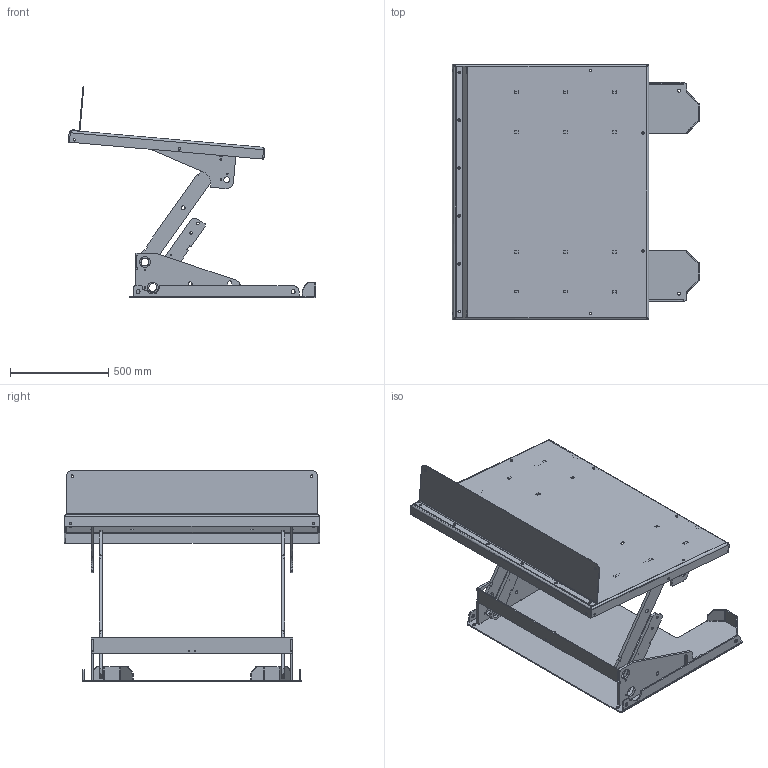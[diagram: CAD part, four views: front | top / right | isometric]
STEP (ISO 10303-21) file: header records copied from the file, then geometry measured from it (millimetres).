
FILE_DESCRIPTION(/* description */ ('ART 1500 (1000x1300)'),/* implementation_level */ '2;1');
FILE_NAME(/* name */ 'C:\Autodesk_VaultWork\Ritningar\STP\22023_Raised_+5Degrees.stp',/* time_stamp */ '2019-06-26T08:08:57+02:00',/* author */ ('johso'),/* organization */ (''),/* preprocessor_version */ 'ST-DEVELOPER v16.5',/* originating_system */ 'Autodesk Inventor 2017',/* authorisation */ '');
FILE_SCHEMA (('AUTOMOTIVE_DESIGN { 1 0 10303 214 3 1 1 }'));
Length unit declared in the file: millimetre
Products named in the file (15): 22023.tmp; 35062; 609164; 609162; 609163; 34547; 34509; 35061; 34561; 35060; 34559; 35064; 35391; 34557; 34546
Assembly tree (20 placements, depth 3):
  22023.tmp
    35062
      609164
      609162
      609163  x2
      34547  x2
      34509  x2
    35061
      34561  x2
    35060
      34559  x2
    35064
      35391
      34557  x2
    34546
Bounding box: 1260.38 x 1300 x 1077.65 mm (x, y, z)
Volume: 22862405.9 mm3; surface area: 7102890.8 mm2
Topology: 16 solids, 16 shells, 1374 faces, 3958 edges, 2620 vertices
Faces by surface type: cylinder 872, plane 494, bspline 8
Full cylindrical faces by diameter (mm): 5.7 x2, 6.9 x4, 7.4 x16, 8.5 x2, 11 x4, 12 x12, 12.5 x12, 15 x4, 20 x6, 30.2 x4
Entity records: 34213 total; most frequent: DIRECTION 6156, CARTESIAN_POINT 6117, ORIENTED_EDGE 5680, EDGE_CURVE 2840, AXIS2_PLACEMENT_3D 2299, VERTEX_POINT 1908, LINE 1558, VECTOR 1558
